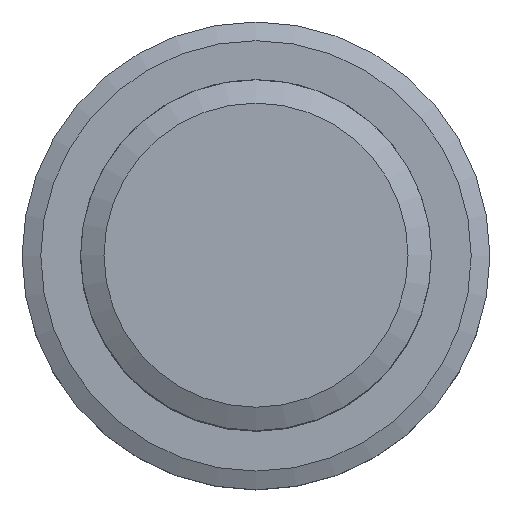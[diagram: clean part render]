
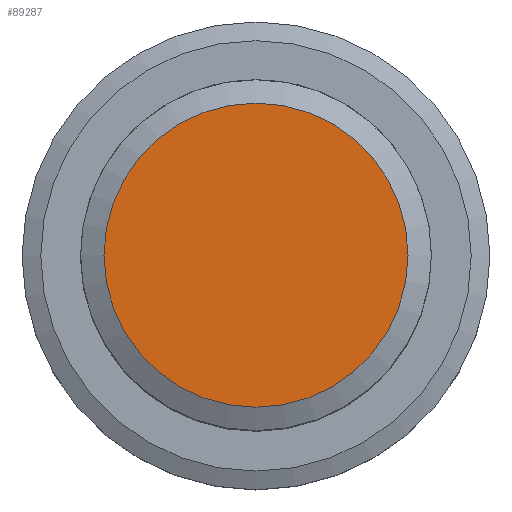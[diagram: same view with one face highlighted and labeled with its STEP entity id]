
A CAD part, top view. The second image highlights one B-rep face of the part: STEP entity #89287.
In plain terms, the highlighted planar face has unit normal (0, 0, 1).
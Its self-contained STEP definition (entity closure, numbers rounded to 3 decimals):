
#79641 = VERTEX_POINT('',#79642);
#79642 = CARTESIAN_POINT('',(13.,0.,45.));
#79648 = EDGE_CURVE('',#79641,#79641,#79649,.T.);
#79649 = CIRCLE('',#79650,13.);
#79650 = AXIS2_PLACEMENT_3D('',#79651,#79652,#79653);
#79651 = CARTESIAN_POINT('',(0.,0.,45.));
#79652 = DIRECTION('',(0.,0.,1.));
#79653 = DIRECTION('',(1.,0.,0.));
#89287 = ADVANCED_FACE('',(#89288),#89291,.T.);
#89288 = FACE_BOUND('',#89289,.T.);
#89289 = EDGE_LOOP('',(#89290));
#89290 = ORIENTED_EDGE('',*,*,#79648,.T.);
#89291 = PLANE('',#89292);
#89292 = AXIS2_PLACEMENT_3D('',#89293,#89294,#89295);
#89293 = CARTESIAN_POINT('',(0.,0.,45.));
#89294 = DIRECTION('',(0.,0.,1.));
#89295 = DIRECTION('',(1.,0.,0.));
